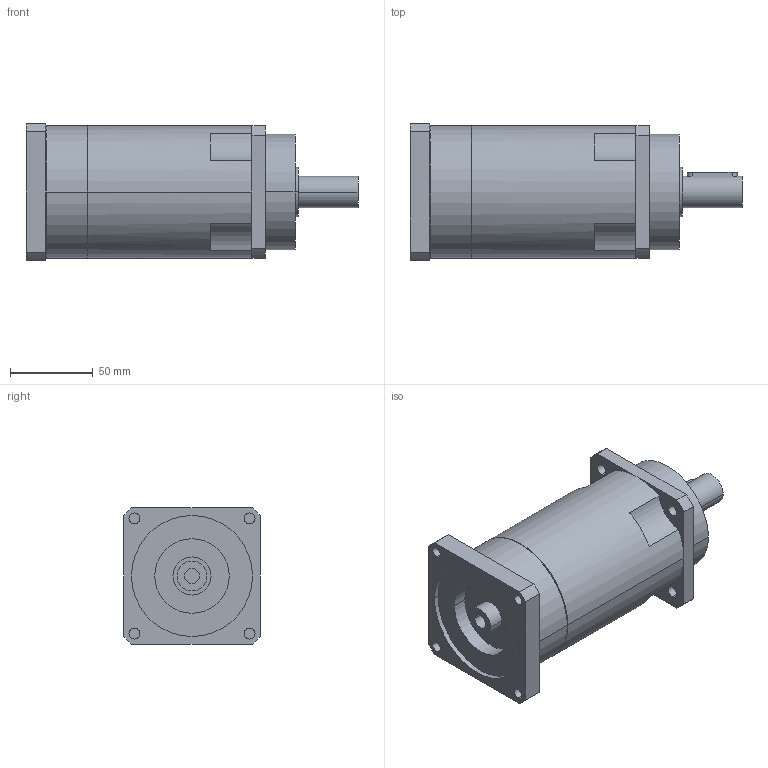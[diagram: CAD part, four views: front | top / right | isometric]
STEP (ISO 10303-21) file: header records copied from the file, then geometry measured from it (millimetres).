
FILE_DESCRIPTION(('CoCreate Modeling STEP Export'),'2;1');
FILE_NAME('GPR100_ig-48-64-80-100-120-144-180-216_19_B5_9_P05.stp','2014-08-26T13:05:05',(''),(''),'CoCreate Modeling STEP processor for AP214 (Solid Model)','CoCreate Modeling 16.00C 25-Feb-2009 (C) Parametric Technology GmbH','');
FILE_SCHEMA(('AUTOMOTIVE_DESIGN { 1 0 10303 214 1 1 1 1 }'));
Length unit declared in the file: millimetre
Products named in the file (2): GPR100_ig-48-64-80-100-120-144-180-216_19_B5_9_P05
Assembly tree (1 placements, depth 2):
  GPR100_ig-48-64-80-100-120-144-180-216_19_B5_9_P05
    GPR100_ig-48-64-80-100-120-144-180-216_19_B5_9_P05
Bounding box: 200.4 x 82.5 x 82.5 mm (x, y, z)
Volume: 800522.4 mm3; surface area: 65771.7 mm2
Topology: 1 solids, 1 shells, 89 faces, 246 edges, 168 vertices
Faces by surface type: cylinder 52, plane 31, cone 6
Entity records: 2607 total; most frequent: ORIENTED_EDGE 488, CARTESIAN_POINT 473, DIRECTION 386, EDGE_CURVE 244, VERTEX_POINT 168, AXIS2_PLACEMENT_3D 145, EDGE_LOOP 116, VECTOR 96
